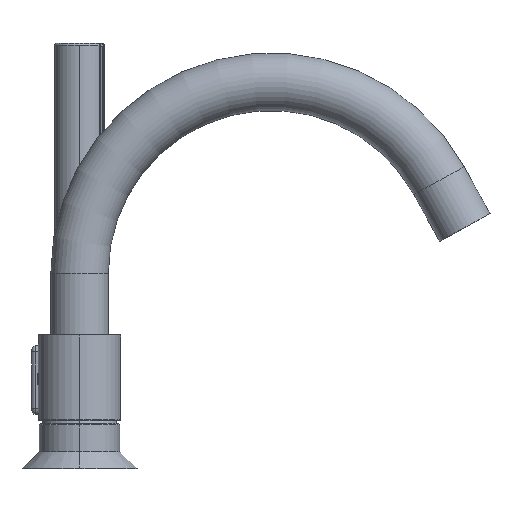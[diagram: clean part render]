
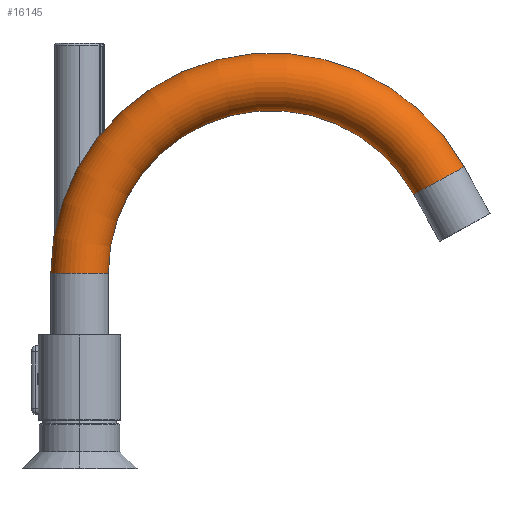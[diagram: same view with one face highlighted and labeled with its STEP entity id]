
A CAD part, left-side view. The second image highlights one B-rep face of the part: STEP entity #16145.
In plain terms, the highlighted toroidal (fillet/blend) face has major radius 100 mm and minor radius 15 mm.
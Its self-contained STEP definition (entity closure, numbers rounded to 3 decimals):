
#15179=CARTESIAN_POINT('',(100.,-100.,158.));
#15180=DIRECTION('',(-1.,0.,0.));
#15181=DIRECTION('',(0.,-0.875,0.484));
#15182=AXIS2_PLACEMENT_3D('',#15179,#15180,#15181);
#15184=CARTESIAN_POINT('',(100.,-187.51,206.394));
#15185=DIRECTION('',(0.,0.484,0.875));
#15186=DIRECTION('',(0.,0.875,-0.484));
#15187=AXIS2_PLACEMENT_3D('',#15184,#15185,#15186);
#15189=CARTESIAN_POINT('',(100.,-100.,158.));
#15190=DIRECTION('',(-1.,0.,0.));
#15191=DIRECTION('',(0.,-0.875,0.484));
#15192=AXIS2_PLACEMENT_3D('',#15189,#15190,#15191);
#15194=CARTESIAN_POINT('',(100.,0.,158.));
#15195=DIRECTION('',(0.,0.,-1.));
#15196=DIRECTION('',(0.,-1.,0.));
#15197=AXIS2_PLACEMENT_3D('',#15194,#15195,#15196);
#15302=CARTESIAN_POINT('',(100.,-174.384,199.135));
#15303=CARTESIAN_POINT('',(100.,-200.637,213.653));
#15304=VERTEX_POINT('',#15302);
#15305=VERTEX_POINT('',#15303);
#15306=CARTESIAN_POINT('',(100.,-15.,158.));
#15307=CARTESIAN_POINT('',(100.,15.,158.));
#15308=VERTEX_POINT('',#15306);
#15309=VERTEX_POINT('',#15307);
#16133=CARTESIAN_POINT('',(100.,-100.,158.));
#16134=DIRECTION('',(-1.,0.,0.));
#16135=DIRECTION('',(0.,0.875,-0.484));
#16136=AXIS2_PLACEMENT_3D('',#16133,#16134,#16135);
#16137=TOROIDAL_SURFACE('',#16136,100.,15.);
#16138=ORIENTED_EDGE('',*,*,#16077,.F.);
#16139=ORIENTED_EDGE('',*,*,#16121,.T.);
#16141=ORIENTED_EDGE('',*,*,#16140,.T.);
#16142=ORIENTED_EDGE('',*,*,#16117,.F.);
#16143=EDGE_LOOP('',(#16138,#16139,#16141,#16142));
#16144=FACE_OUTER_BOUND('',#16143,.F.);
#15183=CIRCLE('',#15182,115.);
#15188=CIRCLE('',#15187,15.);
#15193=CIRCLE('',#15192,85.);
#15198=CIRCLE('',#15197,15.);
#16077=EDGE_CURVE('',#15304,#15305,#15188,.T.);
#16117=EDGE_CURVE('',#15305,#15309,#15183,.T.);
#16121=EDGE_CURVE('',#15304,#15308,#15193,.T.);
#16140=EDGE_CURVE('',#15308,#15309,#15198,.T.);
#16145=ADVANCED_FACE('',(#16144),#16137,.T.);
